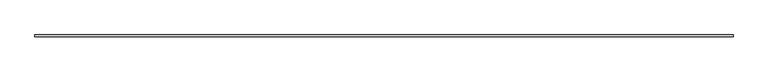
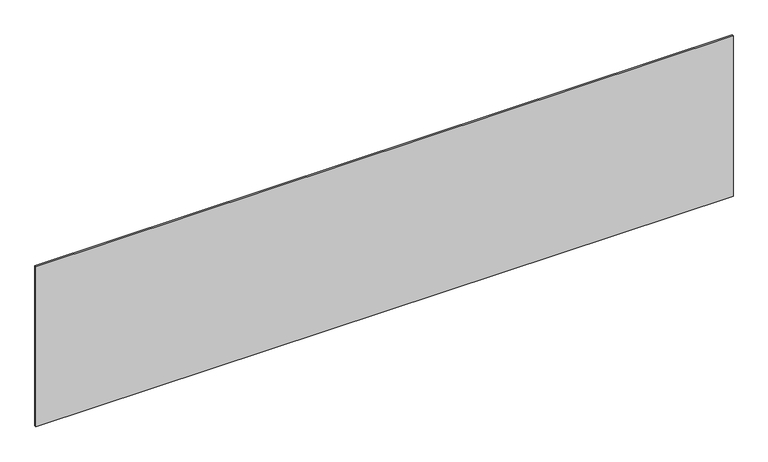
"""IFC4 building model written with IfcOpenShell, lengths in millimetres: plate geometry, Curtain-Panels_Outdoor-Material_HI-MACS_Solids : S006_Artic-White_9mm."""

from ifc_helpers import new_model, si_unit, origin, origin_with_axes, place, context, project, spatial, polyline, outline, extrude, source, transform, mapped, element, save


def plate_d80d702b(model_context):
    return source(origin(), model_context, "Body", "SweptSolid", [
        extrude(outline(polyline([(1840.0, 4.5), (1840.0, -4.5), (-1840.0, -4.5), (-1840.0, 4.5), (1840.0, 4.5)])), origin_with_axes(), (0.0, 0.0, 1.0), 893.5112313),
    ])


if __name__ == "__main__":
    model = new_model("IFC4")
    model_context = context("Model", 3, world=origin())
    ifc_project = project(units=[si_unit("LENGTHUNIT", "METRE", prefix="MILLI")], contexts=[model_context])
    site = spatial("IfcSite", under=ifc_project)
    building = spatial("IfcBuilding", under=site)
    placement = place(None, origin())
    plate_shape = plate_d80d702b(model_context)
    element("IfcPlate", 1, ObjectType="Curtain-Panels_Outdoor-Material_HI-MACS_Solids : S006_Artic-White_9mm", at=placement, inside=building, context=model_context, shape_type="MappedRepresentation", body=[
        mapped(plate_shape, transform((0.0, 0.0, 0.0), x_axis=(1.0, 0.0, 0.0), y_axis=(0.0, 1.0, 0.0), z_axis=(0.0, 0.0, 1.0))),
    ])
    save(model, "model.ifc")
